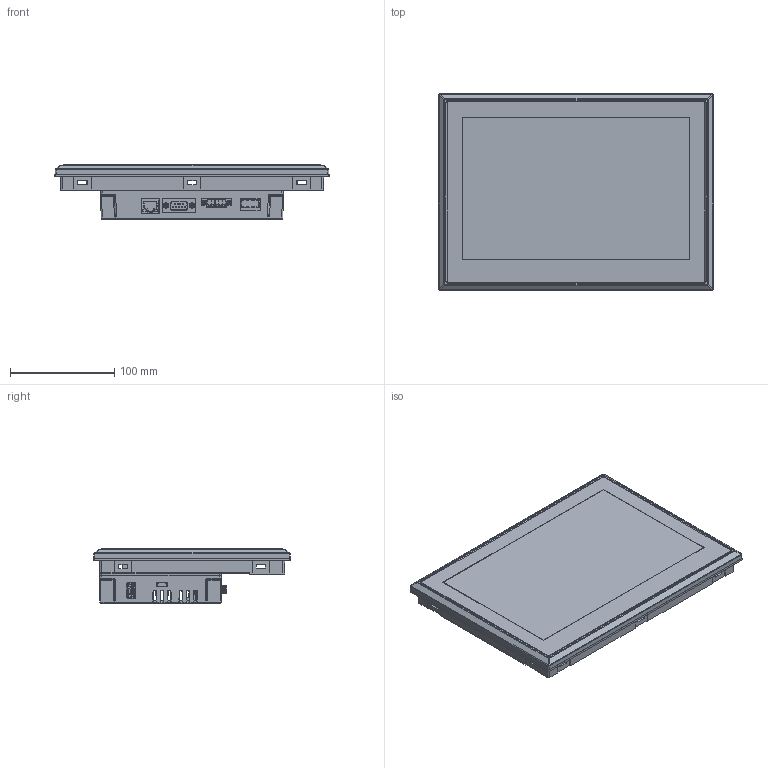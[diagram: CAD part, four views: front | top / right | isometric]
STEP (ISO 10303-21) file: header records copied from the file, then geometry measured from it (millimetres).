
FILE_DESCRIPTION (( 'STEP AP203' ), '1' );
FILE_NAME ('CM-eXT2-10W-DE.STEP', '2025-06-27T06:57:18', ( '' ), ( '' ), 'SwSTEP 2.0', 'SolidWorks 2024', '' );
FILE_SCHEMA (( 'CONFIG_CONTROL_DESIGN' ));
Products named in the file (1): CM-eXT2-10W-DE
Bounding box: 262.55 x 188.19 x 51.8 mm (x, y, z)
Volume: 368383.3 mm3; surface area: 305000.9 mm2
Topology: 1 solids, 14 shells, 5115 faces, 14358 edges, 9309 vertices
Faces by surface type: plane 3208, cylinder 1216, bspline 388, cone 177, sphere 72, torus 54
Entity records: 184376 total; most frequent: CARTESIAN_POINT 55312, ORIENTED_EDGE 28644, DIRECTION 24553, EDGE_CURVE 14322, VECTOR 10285, LINE 10285, VERTEX_POINT 9291, AXIS2_PLACEMENT_3D 7134
